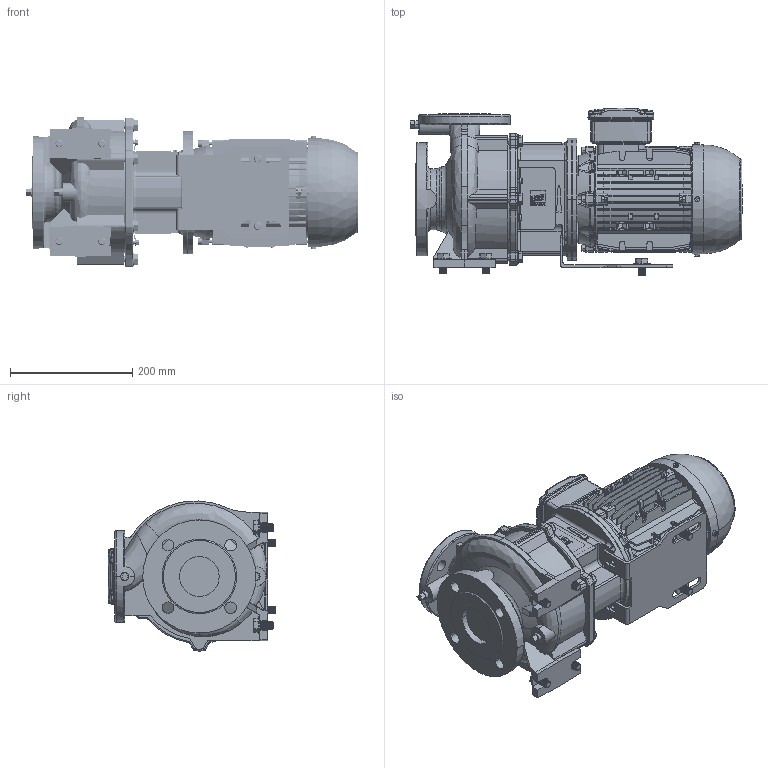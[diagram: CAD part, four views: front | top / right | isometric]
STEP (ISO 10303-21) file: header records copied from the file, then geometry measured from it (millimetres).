
FILE_DESCRIPTION (( 'STEP AP214' ), '1' );
FILE_NAME ('GSD2 40-125_1.5 & 2.2_(90SL)_W21.STEP', '2026-07-02T05:14:27', ( '' ), ( '' ), 'SwSTEP 2.0', 'SolidWorks 2024', '' );
FILE_SCHEMA (( 'AUTOMOTIVE_DESIGN' ));
Length unit declared in the file: inch
Products named in the file (2): GSD2  40-125_1.5 & 2.2_(90SL)_W21; 40-125_90S_L (2)_No Baseplate
Assembly tree (1 placements, depth 2):
  GSD2  40-125_1.5 & 2.2_(90SL)_W21
    40-125_90S_L (2)_No Baseplate
Bounding box: 543.2 x 274 x 245.51 mm (x, y, z)
Volume: 11492957.5 mm3; surface area: 1038450.8 mm2
Topology: 30 solids, 34 shells, 3738 faces, 9903 edges, 6417 vertices
Faces by surface type: plane 1935, cylinder 1020, torus 313, bspline 259, cone 189, sphere 22
Entity records: 227896 total; most frequent: CARTESIAN_POINT 137994, ORIENTED_EDGE 19722, DIRECTION 17177, EDGE_CURVE 9861, VERTEX_POINT 6417, AXIS2_PLACEMENT_3D 5818, LINE 5541, VECTOR 5541
